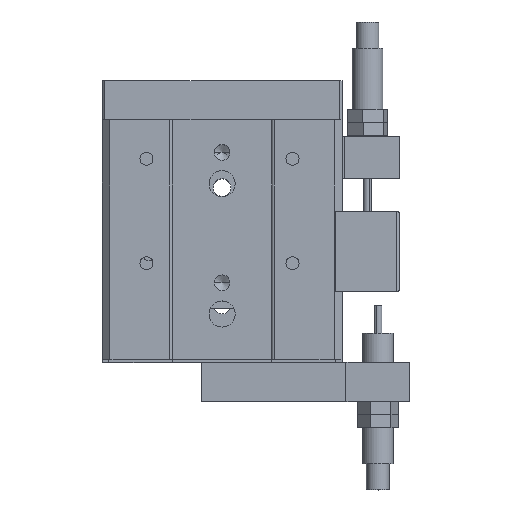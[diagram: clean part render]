
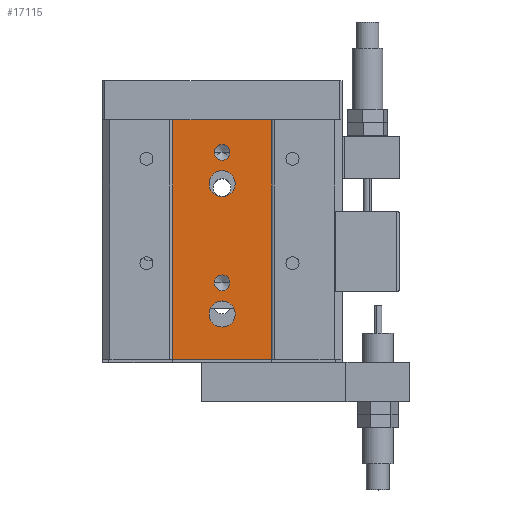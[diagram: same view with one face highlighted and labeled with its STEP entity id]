
A CAD part, top view. The second image highlights one B-rep face of the part: STEP entity #17115.
In plain terms, the highlighted planar face has unit normal (0, 0, 1).
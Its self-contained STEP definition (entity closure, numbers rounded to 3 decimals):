
#13128 = CARTESIAN_POINT ( 'NONE',  ( 51., 67.5, 24. ) ) ;
#17077 = EDGE_CURVE ( 'NONE', #17329, #17225, #24182, .T. ) ;
#17084 = EDGE_LOOP ( 'NONE', ( #17118, #17114 ) ) ;
#17085 = ORIENTED_EDGE ( 'NONE', *, *, #17121, .F. ) ;
#17088 = ORIENTED_EDGE ( 'NONE', *, *, #17429, .F. ) ;
#17099 = EDGE_LOOP ( 'NONE', ( #17104, #17120 ) ) ;
#17100 = ORIENTED_EDGE ( 'NONE', *, *, #17140, .T. ) ;
#17101 = ORIENTED_EDGE ( 'NONE', *, *, #17234, .T. ) ;
#17102 = EDGE_LOOP ( 'NONE', ( #17101, #17116, #17117, #17100 ) ) ;
#17103 = ORIENTED_EDGE ( 'NONE', *, *, #19858, .F. ) ;
#17104 = ORIENTED_EDGE ( 'NONE', *, *, #17464, .F. ) ;
#17111 = EDGE_LOOP ( 'NONE', ( #17085, #17103 ) ) ;
#17112 = ORIENTED_EDGE ( 'NONE', *, *, #19894, .F. ) ;
#17114 = ORIENTED_EDGE ( 'NONE', *, *, #19089, .F. ) ;
#17115 = ADVANCED_FACE ( 'NONE', ( #23691, #23687, #23683, #23682, #23422 ), #23958, .F. ) ;
#17116 = ORIENTED_EDGE ( 'NONE', *, *, #17077, .F. ) ;
#17117 = ORIENTED_EDGE ( 'NONE', *, *, #17335, .F. ) ;
#17118 = ORIENTED_EDGE ( 'NONE', *, *, #17390, .F. ) ;
#17120 = ORIENTED_EDGE ( 'NONE', *, *, #20137, .F. ) ;
#17121 = EDGE_CURVE ( 'NONE', #19884, #19888, #23946, .T. ) ;
#17140 = EDGE_CURVE ( 'NONE', #17331, #17223, #24308, .T. ) ;
#17223 = VERTEX_POINT ( 'NONE', #24502 ) ;
#17225 = VERTEX_POINT ( 'NONE', #24498 ) ;
#17234 = EDGE_CURVE ( 'NONE', #17223, #17225, #24484, .T. ) ;
#17329 = VERTEX_POINT ( 'NONE', #24649 ) ;
#17331 = VERTEX_POINT ( 'NONE', #24639 ) ;
#17335 = EDGE_CURVE ( 'NONE', #17331, #17329, #24631, .T. ) ;
#17390 = EDGE_CURVE ( 'NONE', #19093, #20074, #27700, .T. ) ;
#17429 = EDGE_CURVE ( 'NONE', #19893, #19845, #27795, .T. ) ;
#17433 = EDGE_LOOP ( 'NONE', ( #17088, #17112 ) ) ;
#17464 = EDGE_CURVE ( 'NONE', #27578, #19242, #27809, .T. ) ;
#19089 = EDGE_CURVE ( 'NONE', #20074, #19093, #30774, .T. ) ;
#19093 = VERTEX_POINT ( 'NONE', #30761 ) ;
#19242 = VERTEX_POINT ( 'NONE', #31030 ) ;
#19845 = VERTEX_POINT ( 'NONE', #32217 ) ;
#19858 = EDGE_CURVE ( 'NONE', #19888, #19884, #32190, .T. ) ;
#19884 = VERTEX_POINT ( 'NONE', #32251 ) ;
#19888 = VERTEX_POINT ( 'NONE', #32250 ) ;
#19893 = VERTEX_POINT ( 'NONE', #32303 ) ;
#19894 = EDGE_CURVE ( 'NONE', #19845, #19893, #32298, .T. ) ;
#20074 = VERTEX_POINT ( 'NONE', #32640 ) ;
#20137 = EDGE_CURVE ( 'NONE', #19242, #27578, #32854, .T. ) ;
#23421 = AXIS2_PLACEMENT_3D ( 'NONE', #23432, #23428, #23686 ) ;
#23422 = FACE_OUTER_BOUND ( 'NONE', #17102, .T. ) ;
#23428 = DIRECTION ( 'NONE',  ( 0., 0., -1. ) ) ;
#23432 = CARTESIAN_POINT ( 'NONE',  ( 27., 92., 24. ) ) ;
#23682 = FACE_BOUND ( 'NONE', #17099, .T. ) ;
#23683 = FACE_BOUND ( 'NONE', #17084, .T. ) ;
#23686 = DIRECTION ( 'NONE',  ( -1., 0., 0. ) ) ;
#23687 = FACE_BOUND ( 'NONE', #17111, .T. ) ;
#23691 = FACE_BOUND ( 'NONE', #17433, .T. ) ;
#23922 = AXIS2_PLACEMENT_3D ( 'NONE', #23944, #23943, #23942 ) ;
#23942 = DIRECTION ( 'NONE',  ( 1., 0., 0. ) ) ;
#23943 = DIRECTION ( 'NONE',  ( 0., 0., 1. ) ) ;
#23944 = CARTESIAN_POINT ( 'NONE',  ( 46., 29.5, 24. ) ) ;
#23946 = CIRCLE ( 'NONE', #23922, 3. ) ;
#23958 = PLANE ( 'NONE',  #23421 ) ;
#24163 = DIRECTION ( 'NONE',  ( 0., -1., 0. ) ) ;
#24164 = VECTOR ( 'NONE', #24163, 1000. ) ;
#24181 = CARTESIAN_POINT ( 'NONE',  ( 65., 92., 24. ) ) ;
#24182 = LINE ( 'NONE', #24181, #24164 ) ;
#24305 = DIRECTION ( 'NONE',  ( 0., -1., 0. ) ) ;
#24306 = VECTOR ( 'NONE', #24305, 1000. ) ;
#24307 = CARTESIAN_POINT ( 'NONE',  ( 27., 92., 24. ) ) ;
#24308 = LINE ( 'NONE', #24307, #24306 ) ;
#24481 = DIRECTION ( 'NONE',  ( 1., 0., 0. ) ) ;
#24482 = VECTOR ( 'NONE', #24481, 1000. ) ;
#24483 = CARTESIAN_POINT ( 'NONE',  ( 27., 0., 24. ) ) ;
#24484 = LINE ( 'NONE', #24483, #24482 ) ;
#24498 = CARTESIAN_POINT ( 'NONE',  ( 65., 0., 24. ) ) ;
#24502 = CARTESIAN_POINT ( 'NONE',  ( 27., 0., 24. ) ) ;
#24629 = DIRECTION ( 'NONE',  ( 1., 0., 0. ) ) ;
#24630 = CARTESIAN_POINT ( 'NONE',  ( 27., 92., 24. ) ) ;
#24631 = LINE ( 'NONE', #24630, #24688 ) ;
#24639 = CARTESIAN_POINT ( 'NONE',  ( 27., 92., 24. ) ) ;
#24649 = CARTESIAN_POINT ( 'NONE',  ( 65., 92., 24. ) ) ;
#24688 = VECTOR ( 'NONE', #24629, 1000. ) ;
#27578 = VERTEX_POINT ( 'NONE', #13128 ) ;
#27677 = CARTESIAN_POINT ( 'NONE',  ( 46., 17.5, 24. ) ) ;
#27682 = DIRECTION ( 'NONE',  ( 0., 0., 1. ) ) ;
#27700 = CIRCLE ( 'NONE', #27734, 5. ) ;
#27729 = DIRECTION ( 'NONE',  ( 1., 0., 0. ) ) ;
#27734 = AXIS2_PLACEMENT_3D ( 'NONE', #27677, #27682, #27729 ) ;
#27783 = DIRECTION ( 'NONE',  ( 1., 0., 0. ) ) ;
#27784 = DIRECTION ( 'NONE',  ( 0., 0., 1. ) ) ;
#27785 = CARTESIAN_POINT ( 'NONE',  ( 46., 79.5, 24. ) ) ;
#27786 = AXIS2_PLACEMENT_3D ( 'NONE', #27785, #27784, #27783 ) ;
#27795 = CIRCLE ( 'NONE', #27786, 3. ) ;
#27809 = CIRCLE ( 'NONE', #27850, 5. ) ;
#27846 = DIRECTION ( 'NONE',  ( 1., 0., 0. ) ) ;
#27850 = AXIS2_PLACEMENT_3D ( 'NONE', #27856, #27853, #27846 ) ;
#27853 = DIRECTION ( 'NONE',  ( 0., 0., 1. ) ) ;
#27856 = CARTESIAN_POINT ( 'NONE',  ( 46., 67.5, 24. ) ) ;
#30760 = AXIS2_PLACEMENT_3D ( 'NONE', #30785, #30765, #30823 ) ;
#30761 = CARTESIAN_POINT ( 'NONE',  ( 51., 17.5, 24. ) ) ;
#30765 = DIRECTION ( 'NONE',  ( 0., 0., 1. ) ) ;
#30774 = CIRCLE ( 'NONE', #30760, 5. ) ;
#30785 = CARTESIAN_POINT ( 'NONE',  ( 46., 17.5, 24. ) ) ;
#30823 = DIRECTION ( 'NONE',  ( 1., 0., 0. ) ) ;
#31030 = CARTESIAN_POINT ( 'NONE',  ( 41., 67.5, 24. ) ) ;
#32190 = CIRCLE ( 'NONE', #32240, 3. ) ;
#32217 = CARTESIAN_POINT ( 'NONE',  ( 43., 79.5, 24. ) ) ;
#32237 = DIRECTION ( 'NONE',  ( 1., 0., 0. ) ) ;
#32238 = DIRECTION ( 'NONE',  ( 0., 0., 1. ) ) ;
#32239 = CARTESIAN_POINT ( 'NONE',  ( 46., 29.5, 24. ) ) ;
#32240 = AXIS2_PLACEMENT_3D ( 'NONE', #32239, #32238, #32237 ) ;
#32250 = CARTESIAN_POINT ( 'NONE',  ( 43., 29.5, 24. ) ) ;
#32251 = CARTESIAN_POINT ( 'NONE',  ( 49., 29.5, 24. ) ) ;
#32285 = DIRECTION ( 'NONE',  ( 1., 0., 0. ) ) ;
#32286 = DIRECTION ( 'NONE',  ( 0., 0., 1. ) ) ;
#32287 = AXIS2_PLACEMENT_3D ( 'NONE', #32304, #32286, #32285 ) ;
#32298 = CIRCLE ( 'NONE', #32287, 3. ) ;
#32303 = CARTESIAN_POINT ( 'NONE',  ( 49., 79.5, 24. ) ) ;
#32304 = CARTESIAN_POINT ( 'NONE',  ( 46., 79.5, 24. ) ) ;
#32640 = CARTESIAN_POINT ( 'NONE',  ( 41., 17.5, 24. ) ) ;
#32850 = DIRECTION ( 'NONE',  ( 1., 0., 0. ) ) ;
#32851 = DIRECTION ( 'NONE',  ( 0., 0., 1. ) ) ;
#32852 = CARTESIAN_POINT ( 'NONE',  ( 46., 67.5, 24. ) ) ;
#32853 = AXIS2_PLACEMENT_3D ( 'NONE', #32852, #32851, #32850 ) ;
#32854 = CIRCLE ( 'NONE', #32853, 5. ) ;
